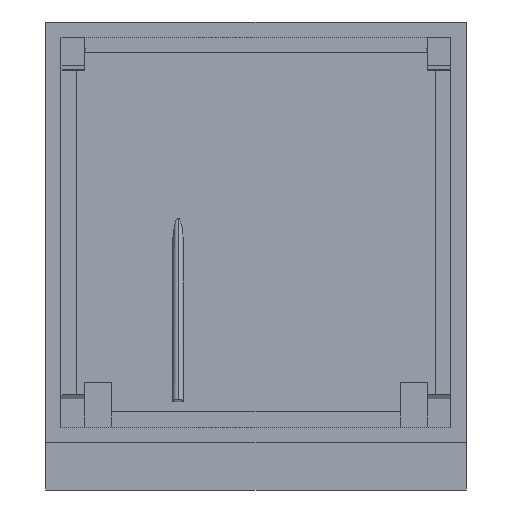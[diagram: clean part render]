
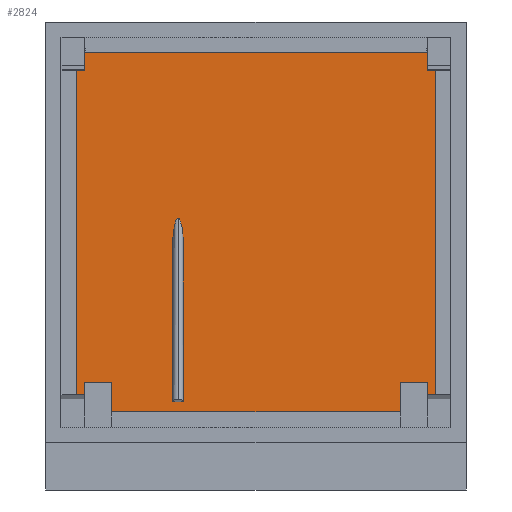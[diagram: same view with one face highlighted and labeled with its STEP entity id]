
A CAD part, front view. The second image highlights one B-rep face of the part: STEP entity #2824.
In plain terms, the highlighted planar face has unit normal (0, -1, 0).
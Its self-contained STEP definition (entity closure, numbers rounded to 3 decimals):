
#345=DIRECTION('',(0.,0.,-1.));
#346=VECTOR('',#345,75.);
#347=CARTESIAN_POINT('',(-370.,-106.,-385.));
#348=LINE('',#347,#346);
#407=CARTESIAN_POINT('',(-200.,-106.,35.724));
#408=CARTESIAN_POINT('',(-199.175,-106.,35.724));
#409=CARTESIAN_POINT('',(-197.463,-106.,34.942));
#410=CARTESIAN_POINT('',(-194.831,-106.,30.979));
#411=CARTESIAN_POINT('',(-192.294,-106.,24.022));
#412=CARTESIAN_POINT('',(-190.029,-106.,14.229));
#413=CARTESIAN_POINT('',(-188.5,-106.,4.161));
#414=CARTESIAN_POINT('',(-187.541,-106.,-4.621));
#415=CARTESIAN_POINT('',(-186.96,-106.,-11.452));
#416=CARTESIAN_POINT('',(-186.518,-106.,-18.412));
#417=CARTESIAN_POINT('',(-186.263,-106.,-24.226));
#418=CARTESIAN_POINT('',(-186.124,-106.,-28.836));
#419=CARTESIAN_POINT('',(-186.052,-106.,-32.262));
#420=CARTESIAN_POINT('',(-186.016,-106.,-35.081));
#421=CARTESIAN_POINT('',(-186.002,-106.,-37.311));
#422=CARTESIAN_POINT('',(-185.999,-106.,-38.966));
#423=CARTESIAN_POINT('',(-186.002,-106.,-40.621));
#424=CARTESIAN_POINT('',(-186.016,-106.,-42.852));
#425=CARTESIAN_POINT('',(-186.052,-106.,-45.67));
#426=CARTESIAN_POINT('',(-186.124,-106.,-49.096));
#427=CARTESIAN_POINT('',(-186.263,-106.,-53.706));
#428=CARTESIAN_POINT('',(-186.518,-106.,-59.521));
#429=CARTESIAN_POINT('',(-186.96,-106.,-66.481));
#430=CARTESIAN_POINT('',(-187.541,-106.,-73.312));
#431=CARTESIAN_POINT('',(-188.5,-106.,-82.093));
#432=CARTESIAN_POINT('',(-190.029,-106.,-92.162));
#433=CARTESIAN_POINT('',(-192.294,-106.,-101.954));
#434=CARTESIAN_POINT('',(-194.831,-106.,-108.911));
#435=CARTESIAN_POINT('',(-197.463,-106.,-112.875));
#436=CARTESIAN_POINT('',(-199.175,-106.,-113.656));
#437=CARTESIAN_POINT('',(-200.,-106.,-113.656));
#439=CARTESIAN_POINT('',(-200.,-106.,-113.656));
#440=CARTESIAN_POINT('',(-200.825,-106.,-113.656));
#441=CARTESIAN_POINT('',(-202.537,-106.,-112.875));
#442=CARTESIAN_POINT('',(-205.169,-106.,-108.911));
#443=CARTESIAN_POINT('',(-207.706,-106.,-101.954));
#444=CARTESIAN_POINT('',(-209.971,-106.,-92.162));
#445=CARTESIAN_POINT('',(-211.5,-106.,-82.093));
#446=CARTESIAN_POINT('',(-212.459,-106.,-73.312));
#447=CARTESIAN_POINT('',(-213.04,-106.,-66.481));
#448=CARTESIAN_POINT('',(-213.482,-106.,-59.521));
#449=CARTESIAN_POINT('',(-213.737,-106.,-53.706));
#450=CARTESIAN_POINT('',(-213.876,-106.,-49.096));
#451=CARTESIAN_POINT('',(-213.948,-106.,-45.67));
#452=CARTESIAN_POINT('',(-213.984,-106.,-42.852));
#453=CARTESIAN_POINT('',(-213.998,-106.,-40.621));
#454=CARTESIAN_POINT('',(-214.001,-106.,-38.966));
#455=CARTESIAN_POINT('',(-213.998,-106.,-37.311));
#456=CARTESIAN_POINT('',(-213.984,-106.,-35.081));
#457=CARTESIAN_POINT('',(-213.948,-106.,-32.262));
#458=CARTESIAN_POINT('',(-213.876,-106.,-28.836));
#459=CARTESIAN_POINT('',(-213.737,-106.,-24.226));
#460=CARTESIAN_POINT('',(-213.482,-106.,-18.412));
#461=CARTESIAN_POINT('',(-213.04,-106.,-11.452));
#462=CARTESIAN_POINT('',(-212.459,-106.,-4.621));
#463=CARTESIAN_POINT('',(-211.5,-106.,4.161));
#464=CARTESIAN_POINT('',(-209.971,-106.,14.229));
#465=CARTESIAN_POINT('',(-207.706,-106.,24.022));
#466=CARTESIAN_POINT('',(-205.169,-106.,30.979));
#467=CARTESIAN_POINT('',(-202.537,-106.,34.942));
#468=CARTESIAN_POINT('',(-200.825,-106.,35.724));
#469=CARTESIAN_POINT('',(-200.,-106.,35.724));
#471=CARTESIAN_POINT('',(-465.,-106.,-465.));
#472=DIRECTION('',(0.,-1.,0.));
#473=DIRECTION('',(0.893,0.,0.45));
#474=AXIS2_PLACEMENT_3D('',#471,#472,#473);
#476=DIRECTION('',(0.,0.,-1.));
#477=VECTOR('',#476,874.9);
#478=CARTESIAN_POINT('',(-460.,-106.,437.45));
#479=LINE('',#478,#477);
#480=CARTESIAN_POINT('',(-465.,-106.,465.));
#481=DIRECTION('',(0.,1.,0.));
#482=DIRECTION('',(0.984,0.,-0.179));
#483=AXIS2_PLACEMENT_3D('',#480,#481,#482);
#485=DIRECTION('',(-1.,0.,0.));
#486=VECTOR('',#485,874.9);
#487=CARTESIAN_POINT('',(437.45,-106.,460.));
#488=LINE('',#487,#486);
#489=CARTESIAN_POINT('',(465.,-106.,465.));
#490=DIRECTION('',(0.,1.,0.));
#491=DIRECTION('',(-0.179,0.,-0.984));
#492=AXIS2_PLACEMENT_3D('',#489,#490,#491);
#494=DIRECTION('',(0.,0.,1.));
#495=VECTOR('',#494,874.9);
#496=CARTESIAN_POINT('',(460.,-106.,-437.45));
#497=LINE('',#496,#495);
#498=CARTESIAN_POINT('',(465.,-106.,-465.));
#499=DIRECTION('',(0.,-1.,0.));
#500=DIRECTION('',(-0.179,0.,0.984));
#501=AXIS2_PLACEMENT_3D('',#498,#499,#500);
#503=DIRECTION('',(1.,0.,0.));
#504=VECTOR('',#503,740.);
#505=CARTESIAN_POINT('',(-370.,-106.,-460.));
#506=LINE('',#505,#504);
#1089=DIRECTION('',(0.,0.,-1.));
#1090=VECTOR('',#1089,67.39);
#1091=CARTESIAN_POINT('',(-440.,-106.,-385.));
#1092=LINE('',#1091,#1090);
#1129=DIRECTION('',(0.,0.,-1.));
#1130=VECTOR('',#1129,75.);
#1131=CARTESIAN_POINT('',(370.,-106.,-385.));
#1132=LINE('',#1131,#1130);
#1145=DIRECTION('',(1.,0.,0.));
#1146=VECTOR('',#1145,70.);
#1147=CARTESIAN_POINT('',(370.,-106.,-385.));
#1148=LINE('',#1147,#1146);
#1165=DIRECTION('',(0.,0.,-1.));
#1166=VECTOR('',#1165,67.39);
#1167=CARTESIAN_POINT('',(440.,-106.,-385.));
#1168=LINE('',#1167,#1166);
#1657=DIRECTION('',(-1.,0.,0.));
#1658=VECTOR('',#1657,70.);
#1659=CARTESIAN_POINT('',(-370.,-106.,-385.));
#1660=LINE('',#1659,#1658);
#1969=CARTESIAN_POINT('',(-437.45,-106.,460.));
#1970=CARTESIAN_POINT('',(-460.,-106.,437.45));
#1971=VERTEX_POINT('',#1969);
#1972=VERTEX_POINT('',#1970);
#2023=CARTESIAN_POINT('',(-200.,-106.,35.724));
#2024=VERTEX_POINT('',#2023);
#2025=CARTESIAN_POINT('',(-200.,-106.,-113.656));
#2026=VERTEX_POINT('',#2025);
#2041=CARTESIAN_POINT('',(437.45,-106.,460.));
#2042=VERTEX_POINT('',#2041);
#2055=CARTESIAN_POINT('',(-370.,-106.,-385.));
#2056=CARTESIAN_POINT('',(-440.,-106.,-385.));
#2057=VERTEX_POINT('',#2055);
#2058=VERTEX_POINT('',#2056);
#2059=CARTESIAN_POINT('',(370.,-106.,-385.));
#2060=CARTESIAN_POINT('',(440.,-106.,-385.));
#2061=VERTEX_POINT('',#2059);
#2062=VERTEX_POINT('',#2060);
#2075=CARTESIAN_POINT('',(-370.,-106.,-460.));
#2076=VERTEX_POINT('',#2075);
#2085=CARTESIAN_POINT('',(370.,-106.,-460.));
#2086=VERTEX_POINT('',#2085);
#2147=CARTESIAN_POINT('',(460.,-106.,437.45));
#2148=VERTEX_POINT('',#2147);
#2261=CARTESIAN_POINT('',(-440.,-106.,-452.39));
#2262=CARTESIAN_POINT('',(-460.,-106.,-437.45));
#2263=VERTEX_POINT('',#2261);
#2264=VERTEX_POINT('',#2262);
#2265=CARTESIAN_POINT('',(460.,-106.,-437.45));
#2266=CARTESIAN_POINT('',(440.,-106.,-452.39));
#2267=VERTEX_POINT('',#2265);
#2268=VERTEX_POINT('',#2266);
#2785=CARTESIAN_POINT('',(0.,-106.,0.));
#2786=DIRECTION('',(0.,-1.,0.));
#2787=DIRECTION('',(1.,0.,0.));
#2788=AXIS2_PLACEMENT_3D('',#2785,#2786,#2787);
#2789=PLANE('',#2788);
#2791=ORIENTED_EDGE('',*,*,#2790,.T.);
#2793=ORIENTED_EDGE('',*,*,#2792,.F.);
#2795=ORIENTED_EDGE('',*,*,#2794,.F.);
#2797=ORIENTED_EDGE('',*,*,#2796,.F.);
#2799=ORIENTED_EDGE('',*,*,#2798,.F.);
#2801=ORIENTED_EDGE('',*,*,#2800,.F.);
#2803=ORIENTED_EDGE('',*,*,#2802,.T.);
#2805=ORIENTED_EDGE('',*,*,#2804,.F.);
#2807=ORIENTED_EDGE('',*,*,#2806,.F.);
#2809=ORIENTED_EDGE('',*,*,#2808,.T.);
#2810=ORIENTED_EDGE('',*,*,#2777,.F.);
#2811=ORIENTED_EDGE('',*,*,#2680,.F.);
#2813=ORIENTED_EDGE('',*,*,#2812,.T.);
#2815=ORIENTED_EDGE('',*,*,#2814,.T.);
#2816=EDGE_LOOP('',(#2791,#2793,#2795,#2797,#2799,#2801,#2803,#2805,#2807,#2809,
#2810,#2811,#2813,#2815));
#2817=FACE_OUTER_BOUND('',#2816,.F.);
#2819=ORIENTED_EDGE('',*,*,#2818,.F.);
#2821=ORIENTED_EDGE('',*,*,#2820,.F.);
#2822=EDGE_LOOP('',(#2819,#2821));
#2823=FACE_BOUND('',#2822,.F.);
#438=B_SPLINE_CURVE_WITH_KNOTS('',3,(#407,#408,#409,#410,#411,#412,#413,#414,
#415,#416,#417,#418,#419,#420,#421,#422,#423,#424,#425,#426,#427,#428,#429,#430,
#431,#432,#433,#434,#435,#436,#437),.UNSPECIFIED.,.F.,.F.,(4,1,1,1,1,1,1,1,1,1,
1,1,1,1,1,1,1,1,1,1,1,1,1,1,1,1,1,1,4),(0.,0.063,0.125,0.188,0.25,
0.313,0.344,0.375,0.406,0.438,0.453,0.469,0.484,
0.492,0.5,0.508,0.516,0.531,0.547,0.563,
0.594,0.625,0.656,0.688,0.75,0.813,0.875,0.938,1.),
.UNSPECIFIED.);
#470=B_SPLINE_CURVE_WITH_KNOTS('',3,(#439,#440,#441,#442,#443,#444,#445,#446,
#447,#448,#449,#450,#451,#452,#453,#454,#455,#456,#457,#458,#459,#460,#461,#462,
#463,#464,#465,#466,#467,#468,#469),.UNSPECIFIED.,.F.,.F.,(4,1,1,1,1,1,1,1,1,1,
1,1,1,1,1,1,1,1,1,1,1,1,1,1,1,1,1,1,4),(0.,0.063,0.125,0.188,0.25,
0.313,0.344,0.375,0.406,0.438,0.453,0.469,0.484,
0.492,0.5,0.508,0.516,0.531,0.547,0.563,
0.594,0.625,0.656,0.688,0.75,0.813,0.875,0.938,1.),
.UNSPECIFIED.);
#475=CIRCLE('',#474,28.);
#484=CIRCLE('',#483,28.);
#493=CIRCLE('',#492,28.);
#502=CIRCLE('',#501,28.);
#2680=EDGE_CURVE('',#2057,#2076,#348,.T.);
#2777=EDGE_CURVE('',#2076,#2086,#506,.T.);
#2790=EDGE_CURVE('',#2263,#2264,#475,.T.);
#2792=EDGE_CURVE('',#1972,#2264,#479,.T.);
#2794=EDGE_CURVE('',#1971,#1972,#484,.T.);
#2796=EDGE_CURVE('',#2042,#1971,#488,.T.);
#2798=EDGE_CURVE('',#2148,#2042,#493,.T.);
#2800=EDGE_CURVE('',#2267,#2148,#497,.T.);
#2802=EDGE_CURVE('',#2267,#2268,#502,.T.);
#2804=EDGE_CURVE('',#2062,#2268,#1168,.T.);
#2806=EDGE_CURVE('',#2061,#2062,#1148,.T.);
#2808=EDGE_CURVE('',#2061,#2086,#1132,.T.);
#2812=EDGE_CURVE('',#2057,#2058,#1660,.T.);
#2814=EDGE_CURVE('',#2058,#2263,#1092,.T.);
#2818=EDGE_CURVE('',#2024,#2026,#438,.T.);
#2820=EDGE_CURVE('',#2026,#2024,#470,.T.);
#2824=ADVANCED_FACE('',(#2817,#2823),#2789,.T.);
